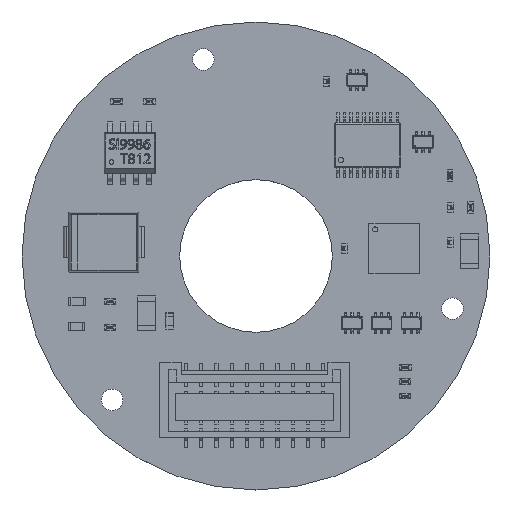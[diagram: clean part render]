
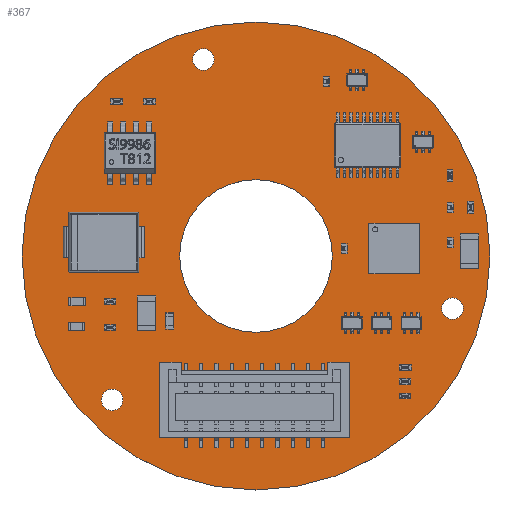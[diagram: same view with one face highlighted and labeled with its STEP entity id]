
A CAD part, top view. The second image highlights one B-rep face of the part: STEP entity #367.
In plain terms, the highlighted planar face has unit normal (0, 0, 1).
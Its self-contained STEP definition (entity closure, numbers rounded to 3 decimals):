
#188 = VERTEX_POINT('',#189);
#189 = CARTESIAN_POINT('',(46.085,22.397,0.411));
#195 = EDGE_CURVE('',#188,#188,#196,.T.);
#196 = CIRCLE('',#197,23.);
#197 = AXIS2_PLACEMENT_3D('',#198,#199,#200);
#198 = CARTESIAN_POINT('',(23.085,22.397,0.411));
#199 = DIRECTION('',(0.,0.,1.));
#200 = DIRECTION('',(1.,0.,0.));
#221 = VERTEX_POINT('',#222);
#222 = CARTESIAN_POINT('',(9.999,8.255,0.411));
#228 = EDGE_CURVE('',#221,#221,#229,.T.);
#229 = CIRCLE('',#230,1.056);
#230 = AXIS2_PLACEMENT_3D('',#231,#232,#233);
#231 = CARTESIAN_POINT('',(8.943,8.255,0.411));
#232 = DIRECTION('',(0.,0.,1.));
#233 = DIRECTION('',(1.,0.,0.));
#254 = VERTEX_POINT('',#255);
#255 = CARTESIAN_POINT('',(30.585,22.397,0.411));
#261 = EDGE_CURVE('',#254,#254,#262,.T.);
#262 = CIRCLE('',#263,7.5);
#263 = AXIS2_PLACEMENT_3D('',#264,#265,#266);
#264 = CARTESIAN_POINT('',(23.085,22.397,0.411));
#265 = DIRECTION('',(0.,0.,1.));
#266 = DIRECTION('',(1.,0.,0.));
#287 = VERTEX_POINT('',#288);
#288 = CARTESIAN_POINT('',(43.46,17.221,0.411));
#294 = EDGE_CURVE('',#287,#287,#295,.T.);
#295 = CIRCLE('',#296,1.056);
#296 = AXIS2_PLACEMENT_3D('',#297,#298,#299);
#297 = CARTESIAN_POINT('',(42.404,17.221,0.411));
#298 = DIRECTION('',(0.,0.,1.));
#299 = DIRECTION('',(1.,0.,0.));
#320 = VERTEX_POINT('',#321);
#321 = CARTESIAN_POINT('',(18.965,41.715,0.411));
#327 = EDGE_CURVE('',#320,#320,#328,.T.);
#328 = CIRCLE('',#329,1.056);
#329 = AXIS2_PLACEMENT_3D('',#330,#331,#332);
#330 = CARTESIAN_POINT('',(17.909,41.715,0.411));
#331 = DIRECTION('',(0.,0.,1.));
#332 = DIRECTION('',(1.,0.,0.));
#367 = ADVANCED_FACE('',(#368,#371,#374,#377,#380),#383,.F.);
#368 = FACE_BOUND('',#369,.T.);
#369 = EDGE_LOOP('',(#370));
#370 = ORIENTED_EDGE('',*,*,#195,.T.);
#371 = FACE_BOUND('',#372,.F.);
#372 = EDGE_LOOP('',(#373));
#373 = ORIENTED_EDGE('',*,*,#228,.T.);
#374 = FACE_BOUND('',#375,.F.);
#375 = EDGE_LOOP('',(#376));
#376 = ORIENTED_EDGE('',*,*,#261,.T.);
#377 = FACE_BOUND('',#378,.F.);
#378 = EDGE_LOOP('',(#379));
#379 = ORIENTED_EDGE('',*,*,#294,.T.);
#380 = FACE_BOUND('',#381,.F.);
#381 = EDGE_LOOP('',(#382));
#382 = ORIENTED_EDGE('',*,*,#327,.T.);
#383 = PLANE('',#384);
#384 = AXIS2_PLACEMENT_3D('',#385,#386,#387);
#385 = CARTESIAN_POINT('',(46.085,22.397,0.411));
#386 = DIRECTION('',(0.,0.,-1.));
#387 = DIRECTION('',(-1.,0.,0.));
